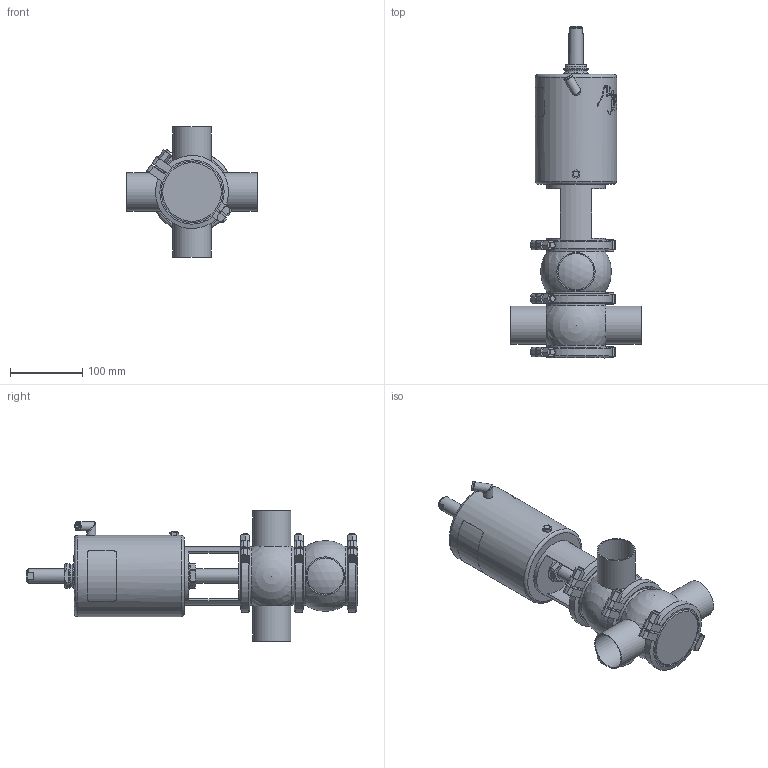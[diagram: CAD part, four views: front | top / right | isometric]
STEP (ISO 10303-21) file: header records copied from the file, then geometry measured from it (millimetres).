
FILE_DESCRIPTION (( 'STEP AP214' ), '1' );
FILE_NAME ('INNOVA M C W DIN 050 T2 AS NC_10.241.16.0007.STEP', '2024-08-07T12:40:13', ( '' ), ( '' ), 'SwSTEP 2.0', 'SolidWorks 2023', '' );
FILE_SCHEMA (( 'AUTOMOTIVE_DESIGN' ));
Length unit declared in the file: millimetre
Products named in the file (6): 10.241.15.0001_DIN 050; 10.240.15.0014_T2 AS P180; 10.240.15.0001_DN 050; INNOVA M C W DIN 050 T2 AS NC_10.241.16.0007; 10.240.15.0007_DIN 050; 10.240.15.0010_DN 050
Assembly tree (8 placements, depth 2):
  INNOVA M C W DIN 050 T2 AS NC_10.241.16.0007
    10.240.15.0007_DIN 050  x2
    10.240.15.0010_DN 050
    10.240.15.0014_T2 AS P180
    10.240.15.0001_DN 050  x3
    10.241.15.0001_DIN 050
Bounding box: 180 x 459.27 x 180 mm (x, y, z)
Volume: 2813551.6 mm3; surface area: 328378.9 mm2
Topology: 9 solids, 9 shells, 467 faces, 1227 edges, 801 vertices
Faces by surface type: plane 227, cylinder 114, bspline 80, cone 36, sphere 6, torus 4
Full cylindrical faces by diameter (mm): 6.15 x1, 8 x7, 8.5 x1, 10.5 x1, 12.5 x3, 16 x1, 20 x2, 31 x1, 34.5 x2, 36.5 x1, 50 x4, 53 x4, 81 x6, 93 x6, 112.5 x1
Entity records: 20451 total; most frequent: CARTESIAN_POINT 11274, ORIENTED_EDGE 1600, DIRECTION 1221, EDGE_CURVE 800, VERTEX_POINT 551, AXIS2_PLACEMENT_3D 466, EDGE_LOOP 407, FACE_OUTER_BOUND 366
